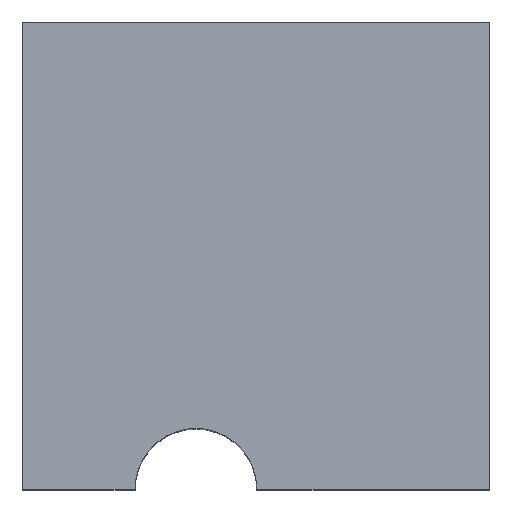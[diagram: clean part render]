
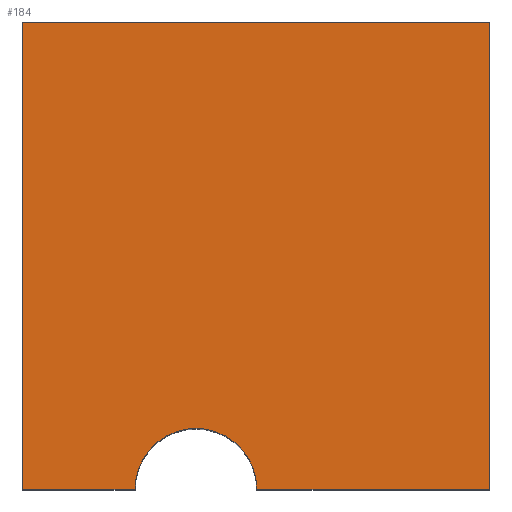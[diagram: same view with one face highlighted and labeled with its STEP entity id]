
A CAD part, top view. The second image highlights one B-rep face of the part: STEP entity #184.
In plain terms, the highlighted planar face has unit normal (0, 0, 1).
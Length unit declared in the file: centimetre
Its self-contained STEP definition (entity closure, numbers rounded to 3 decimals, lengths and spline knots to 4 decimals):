
#16 = EDGE_CURVE ( 'NONE', #458, #306, #103, .T. ) ;
#34 = EDGE_CURVE ( 'NONE', #97, #675, #141, .T. ) ;
#97 = VERTEX_POINT ( 'NONE', #451 ) ;
#103 = CIRCLE ( 'NONE', #422, 130.2248 ) ;
#115 = DIRECTION ( 'NONE',  ( 0., -1., 0. ) ) ;
#125 = ORIENTED_EDGE ( 'NONE', *, *, #671, .T. ) ;
#126 = DIRECTION ( 'NONE',  ( -1., 0., 0. ) ) ;
#134 = CARTESIAN_POINT ( 'NONE',  ( 1000., 1000., 1000. ) ) ;
#141 = LINE ( 'NONE', #398, #146 ) ;
#145 = CARTESIAN_POINT ( 'NONE',  ( 0., 0., 1000. ) ) ;
#146 = VECTOR ( 'NONE', #115, 100. ) ;
#159 = VECTOR ( 'NONE', #402, 100. ) ;
#164 = AXIS2_PLACEMENT_3D ( 'NONE', #571, #261, #551 ) ;
#184 = ADVANCED_FACE ( 'NONE', ( #782 ), #424, .T. ) ;
#204 = DIRECTION ( 'NONE',  ( 0., 0., 1. ) ) ;
#217 = ORIENTED_EDGE ( 'NONE', *, *, #34, .T. ) ;
#241 = ORIENTED_EDGE ( 'NONE', *, *, #254, .T. ) ;
#254 = EDGE_CURVE ( 'NONE', #751, #97, #771, .T. ) ;
#261 = DIRECTION ( 'NONE',  ( 0., 0., 1. ) ) ;
#266 = EDGE_CURVE ( 'NONE', #747, #751, #389, .T. ) ;
#306 = VERTEX_POINT ( 'NONE', #832 ) ;
#320 = ORIENTED_EDGE ( 'NONE', *, *, #16, .F. ) ;
#327 = CARTESIAN_POINT ( 'NONE',  ( 1000., 1000., 1000. ) ) ;
#389 = LINE ( 'NONE', #327, #746 ) ;
#398 = CARTESIAN_POINT ( 'NONE',  ( 0., 1000., 1000. ) ) ;
#400 = EDGE_LOOP ( 'NONE', ( #320, #125, #530, #241, #217, #447 ) ) ;
#402 = DIRECTION ( 'NONE',  ( 1., 0., 0. ) ) ;
#422 = AXIS2_PLACEMENT_3D ( 'NONE', #844, #204, #489 ) ;
#424 = PLANE ( 'NONE',  #164 ) ;
#427 = CARTESIAN_POINT ( 'NONE',  ( 0., 0., 1000. ) ) ;
#447 = ORIENTED_EDGE ( 'NONE', *, *, #583, .T. ) ;
#451 = CARTESIAN_POINT ( 'NONE',  ( 0., 1000., 1000. ) ) ;
#458 = VERTEX_POINT ( 'NONE', #748 ) ;
#476 = CARTESIAN_POINT ( 'NONE',  ( 0., 0., 1000. ) ) ;
#489 = DIRECTION ( 'NONE',  ( 1., 0., 0. ) ) ;
#530 = ORIENTED_EDGE ( 'NONE', *, *, #266, .T. ) ;
#551 = DIRECTION ( 'NONE',  ( 1., 0., 0. ) ) ;
#560 = LINE ( 'NONE', #427, #774 ) ;
#571 = CARTESIAN_POINT ( 'NONE',  ( 0., 0., 1000. ) ) ;
#583 = EDGE_CURVE ( 'NONE', #675, #306, #834, .T. ) ;
#644 = CARTESIAN_POINT ( 'NONE',  ( 1000., 0., 1000. ) ) ;
#671 = EDGE_CURVE ( 'NONE', #458, #747, #560, .T. ) ;
#675 = VERTEX_POINT ( 'NONE', #145 ) ;
#693 = CARTESIAN_POINT ( 'NONE',  ( 0., 1000., 1000. ) ) ;
#711 = VECTOR ( 'NONE', #126, 100. ) ;
#746 = VECTOR ( 'NONE', #902, 100. ) ;
#747 = VERTEX_POINT ( 'NONE', #644 ) ;
#748 = CARTESIAN_POINT ( 'NONE',  ( 501.7414, 0., 1000. ) ) ;
#751 = VERTEX_POINT ( 'NONE', #134 ) ;
#771 = LINE ( 'NONE', #693, #711 ) ;
#774 = VECTOR ( 'NONE', #848, 100. ) ;
#782 = FACE_OUTER_BOUND ( 'NONE', #400, .T. ) ;
#832 = CARTESIAN_POINT ( 'NONE',  ( 241.2918, 0., 1000. ) ) ;
#834 = LINE ( 'NONE', #476, #159 ) ;
#844 = CARTESIAN_POINT ( 'NONE',  ( 371.5166, 0., 1000. ) ) ;
#848 = DIRECTION ( 'NONE',  ( 1., 0., 0. ) ) ;
#902 = DIRECTION ( 'NONE',  ( 0., 1., 0. ) ) ;
